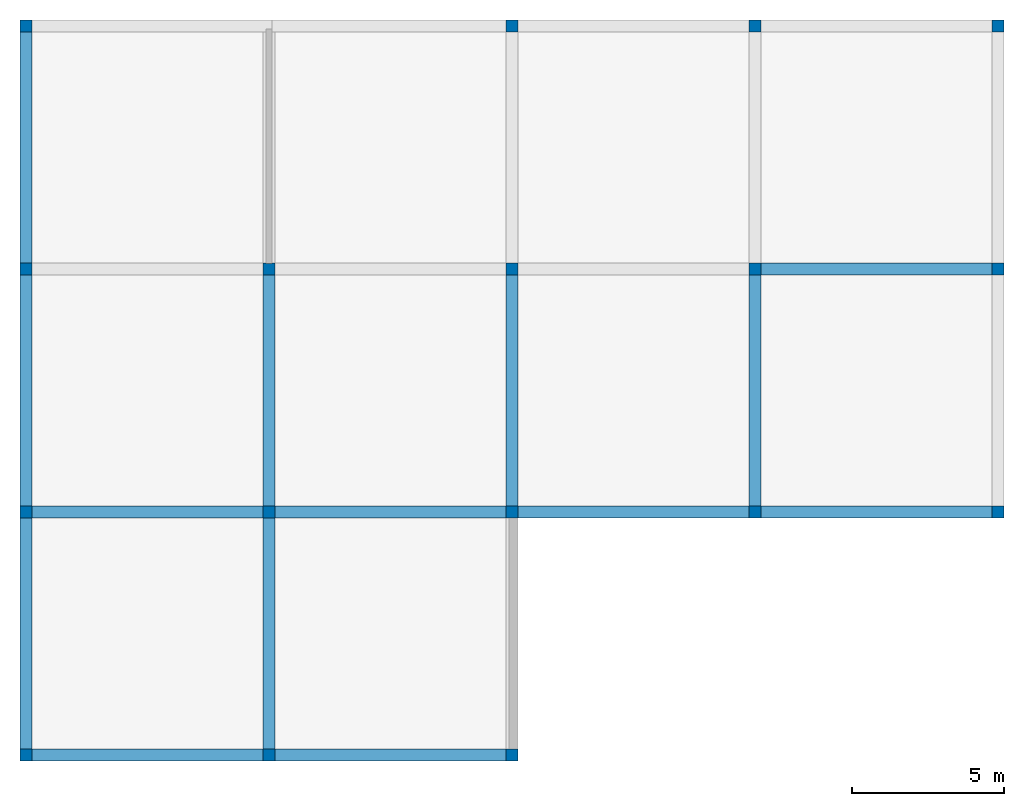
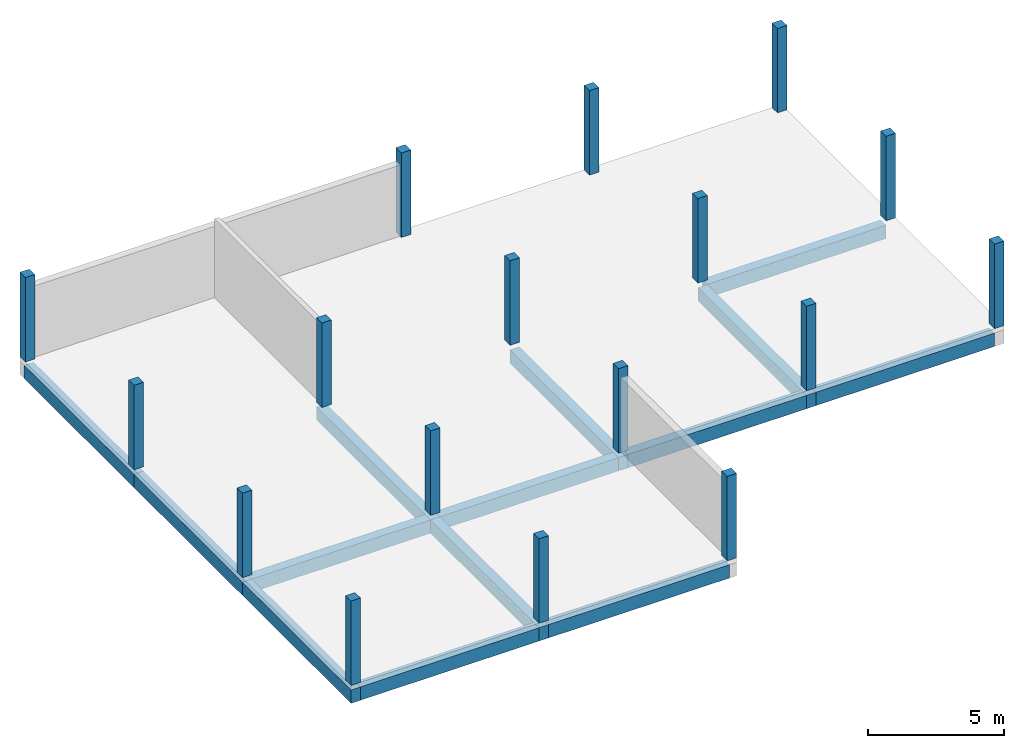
# One storey, part 1 of 3: 17 columns, 14 beams.
"""IFC4X3_ADD2 building model written with IfcOpenShell, lengths in millimetres."""

from ifc_helpers import new_model, entity, si_unit, converted_unit, derived_unit, direction, frame, frame_2d, origin, origin_2d_with_axis, place, context, subcontext, project, spatial, rectangle, extrude, faceted_brep, source, transform, mapped, material, material_profile, profile_set, type_object, type_shapes, element, save


model = new_model("IFC4X3_ADD2")

# Units and contexts
model_context = context("Model", 3, precision=0.01, world=origin(), true_north=direction((6.123233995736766e-17, 1.0)))
plan_context = context("Plan", 3, precision=0.01, world=origin(), true_north=direction((6.123233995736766e-17, 1.0)))
body_context = subcontext(model_context, "Body", "Model", "MODEL_VIEW")
ifc_project = project(units=[si_unit("LENGTHUNIT", "METRE", prefix="MILLI"), converted_unit("PLANEANGLEUNIT", "DEGREE", entity("IfcPlaneAngleMeasure", 0.017453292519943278), si_unit("PLANEANGLEUNIT", "RADIAN"), dimensions=[0, 0, 0, 0, 0, 0, 0]), si_unit("AREAUNIT", "SQUARE_METRE"), si_unit("VOLUMEUNIT", "CUBIC_METRE"), derived_unit("THERMALTRANSMITTANCEUNIT", [(si_unit("MASSUNIT", "GRAM", prefix="KILO"), 1), (si_unit("THERMODYNAMICTEMPERATUREUNIT", "KELVIN"), -1), (si_unit("TIMEUNIT", "SECOND"), -3)]), derived_unit("USERDEFINED", [(si_unit("MASSUNIT", "GRAM", prefix="KILO"), 1), (si_unit("THERMODYNAMICTEMPERATUREUNIT", "KELVIN"), -1), (si_unit("TIMEUNIT", "SECOND"), -2)]), derived_unit("THERMALRESISTANCEUNIT", [(si_unit("MASSUNIT", "GRAM", prefix="KILO"), -1), (si_unit("TIMEUNIT", "SECOND"), 3), (si_unit("THERMODYNAMICTEMPERATUREUNIT", "KELVIN"), 1)]), si_unit("PRESSUREUNIT", "PASCAL"), derived_unit("MASSDENSITYUNIT", [(si_unit("MASSUNIT", "GRAM", prefix="KILO"), 1), (si_unit("LENGTHUNIT", "METRE"), -3)]), derived_unit("MODULUSOFELASTICITYUNIT", [(si_unit("MASSUNIT", "GRAM", prefix="KILO"), 1), (si_unit("TIMEUNIT", "SECOND"), -2), (si_unit("LENGTHUNIT", "METRE"), -1)]), derived_unit("THERMALEXPANSIONCOEFFICIENTUNIT", [(si_unit("THERMODYNAMICTEMPERATUREUNIT", "KELVIN"), -1)]), derived_unit("VAPORPERMEABILITYUNIT", [(si_unit("LENGTHUNIT", "METRE"), -1), (si_unit("TIMEUNIT", "SECOND"), 1)]), derived_unit("USERDEFINED", [(si_unit("MASSUNIT", "GRAM", prefix="KILO"), 1), (si_unit("TIMEUNIT", "SECOND"), -3), (si_unit("LENGTHUNIT", "METRE"), 3), (si_unit("ELECTRICCURRENTUNIT", "AMPERE"), -2)]), derived_unit("SPECIFICHEATCAPACITYUNIT", [(si_unit("THERMODYNAMICTEMPERATUREUNIT", "KELVIN"), -1), (si_unit("TIMEUNIT", "SECOND"), -2), (si_unit("LENGTHUNIT", "METRE"), 2)]), derived_unit("THERMALCONDUCTANCEUNIT", [(si_unit("MASSUNIT", "GRAM", prefix="KILO"), 1), (si_unit("THERMODYNAMICTEMPERATUREUNIT", "KELVIN"), -1), (si_unit("TIMEUNIT", "SECOND"), -3), (si_unit("LENGTHUNIT", "METRE"), 1)])], contexts=[model_context, plan_context])

# Site, building, storey
site_placement = place(None, origin())
site = spatial("IfcSite", under=ifc_project, at=site_placement, Name="Default", CompositionType="ELEMENT")
building_placement = place(site_placement, origin())
building = spatial("IfcBuilding", under=site, at=building_placement, Name="Building Name", CompositionType="ELEMENT")
storey_placement = place(building_placement, origin())
storey = spatial("IfcBuildingStorey", under=building, at=storey_placement, Name="L1", CompositionType="ELEMENT", Elevation=0.0)

# Columns
ifc_material = material(Name="Concrete - Cast-in-Place Concrete", Category="Concrete")
ifc_material_profile_1 = material_profile(ifc_material, rectangle(XDim=400.0, YDim=400.0, at=origin_2d_with_axis()), Name="400 x 400mm")
ifc_profile_set_1 = profile_set([ifc_material_profile_1], Name="400 x 400mm")
column_type_1 = type_object("IfcColumnType", Name="Concrete Square:400 x 400mm", PredefinedType="COLUMN", material=ifc_profile_set_1)
shared_shape_1 = source(origin(), body_context, "Body", "SweptSolid", [
    extrude(rectangle(XDim=400.0, YDim=400.0, at=origin_2d_with_axis()), frame((11032.048763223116, 12096.696870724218, 0.0), z_axis=(0.0, 0.0, 1.0), x_axis=(-1.0, 0.0, 0.0)), (0.0, 0.0, 1.0), 3800.0000000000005),
])
type_shapes(column_type_1, [shared_shape_1])
column_1_placement = place(storey_placement, origin())
element("IfcColumn", 1, at=column_1_placement, inside=storey, type_object=column_type_1, Name="Concrete Square:400 x 400mm", ObjectType="Concrete Square:400 x 400mm", PredefinedType="COLUMN", context=body_context, shape_type="MappedRepresentation", body=[
    mapped(shared_shape_1, transform((0.0, 0.0, 0.0), scale=1.0)),
])
column_type_2 = type_object("IfcColumnType", Name="Concrete Square:400 x 400mm", PredefinedType="COLUMN", material=ifc_profile_set_1)
shared_shape_2 = source(origin(), body_context, "Body", "SweptSolid", [
    extrude(rectangle(XDim=400.0, YDim=400.0, at=origin_2d_with_axis()), frame((19032.048763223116, 12096.696870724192, 0.0), z_axis=(0.0, 0.0, 1.0), x_axis=(-1.0, 0.0, 0.0)), (0.0, 0.0, 1.0), 3800.0000000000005),
])
type_shapes(column_type_2, [shared_shape_2])
column_2_placement = place(storey_placement, origin())
element("IfcColumn", 2, at=column_2_placement, inside=storey, type_object=column_type_2, Name="Concrete Square:400 x 400mm", ObjectType="Concrete Square:400 x 400mm", PredefinedType="COLUMN", context=body_context, shape_type="MappedRepresentation", body=[
    mapped(shared_shape_2, transform((0.0, 0.0, 0.0), scale=1.0)),
])
column_type_3 = type_object("IfcColumnType", Name="Concrete Square:400 x 400mm", PredefinedType="COLUMN", material=ifc_profile_set_1)
shared_shape_3 = source(origin(), body_context, "Body", "SweptSolid", [
    extrude(rectangle(XDim=400.0, YDim=400.0, at=origin_2d_with_axis()), frame((-12967.951236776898, 4096.696870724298, 0.0), z_axis=(0.0, 0.0, 1.0), x_axis=(-1.0, 0.0, 0.0)), (0.0, 0.0, 1.0), 3800.0000000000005),
])
type_shapes(column_type_3, [shared_shape_3])
column_3_placement = place(storey_placement, origin())
element("IfcColumn", 3, at=column_3_placement, inside=storey, type_object=column_type_3, Name="Concrete Square:400 x 400mm", ObjectType="Concrete Square:400 x 400mm", PredefinedType="COLUMN", context=body_context, shape_type="MappedRepresentation", body=[
    mapped(shared_shape_3, transform((0.0, 0.0, 0.0), scale=1.0)),
])
column_type_4 = type_object("IfcColumnType", Name="Concrete Square:400 x 400mm", PredefinedType="COLUMN", material=ifc_profile_set_1)
shared_shape_4 = source(origin(), body_context, "Body", "SweptSolid", [
    extrude(rectangle(XDim=400.0, YDim=400.0, at=origin_2d_with_axis()), frame((3032.0487632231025, 4096.696870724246, 0.0), z_axis=(0.0, 0.0, 1.0), x_axis=(-1.0, 0.0, 0.0)), (0.0, 0.0, 1.0), 3800.0000000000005),
])
type_shapes(column_type_4, [shared_shape_4])
column_4_placement = place(storey_placement, origin())
element("IfcColumn", 4, at=column_4_placement, inside=storey, type_object=column_type_4, Name="Concrete Square:400 x 400mm", ObjectType="Concrete Square:400 x 400mm", PredefinedType="COLUMN", context=body_context, shape_type="MappedRepresentation", body=[
    mapped(shared_shape_4, transform((0.0, 0.0, 0.0), scale=1.0)),
])
column_type_5 = type_object("IfcColumnType", Name="Concrete Square:400 x 400mm", PredefinedType="COLUMN", material=ifc_profile_set_1)
shared_shape_5 = source(origin(), body_context, "Body", "SweptSolid", [
    extrude(rectangle(XDim=400.0, YDim=400.0, at=origin_2d_with_axis()), frame((11032.048763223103, 4096.6968707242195, 0.0), z_axis=(0.0, 0.0, 1.0), x_axis=(-1.0, 0.0, 0.0)), (0.0, 0.0, 1.0), 3800.0000000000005),
])
type_shapes(column_type_5, [shared_shape_5])
column_5_placement = place(storey_placement, origin())
element("IfcColumn", 5, at=column_5_placement, inside=storey, type_object=column_type_5, Name="Concrete Square:400 x 400mm", ObjectType="Concrete Square:400 x 400mm", PredefinedType="COLUMN", context=body_context, shape_type="MappedRepresentation", body=[
    mapped(shared_shape_5, transform((0.0, 0.0, 0.0), scale=1.0)),
])
column_type_6 = type_object("IfcColumnType", Name="Concrete Square:400 x 400mm", PredefinedType="COLUMN", material=ifc_profile_set_1)
shared_shape_6 = source(origin(), body_context, "Body", "SweptSolid", [
    extrude(rectangle(XDim=400.0, YDim=400.0, at=origin_2d_with_axis()), frame((19032.048763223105, 4096.696870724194, 0.0), z_axis=(0.0, 0.0, 1.0), x_axis=(-1.0, 0.0, 0.0)), (0.0, 0.0, 1.0), 3800.0000000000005),
])
type_shapes(column_type_6, [shared_shape_6])
column_6_placement = place(storey_placement, origin())
element("IfcColumn", 6, at=column_6_placement, inside=storey, type_object=column_type_6, Name="Concrete Square:400 x 400mm", ObjectType="Concrete Square:400 x 400mm", PredefinedType="COLUMN", context=body_context, shape_type="MappedRepresentation", body=[
    mapped(shared_shape_6, transform((0.0, 0.0, 0.0), scale=1.0)),
])
column_type_7 = type_object("IfcColumnType", Name="Concrete Square:400 x 400mm", PredefinedType="COLUMN", material=ifc_profile_set_1)
shared_shape_7 = source(origin(), body_context, "Body", "SweptSolid", [
    extrude(rectangle(XDim=400.0, YDim=400.0, at=origin_2d_with_axis()), frame((-12967.951236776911, -3903.3031292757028, 0.0), z_axis=(0.0, 0.0, 1.0), x_axis=(-1.0, 0.0, 0.0)), (0.0, 0.0, 1.0), 3800.0000000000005),
])
type_shapes(column_type_7, [shared_shape_7])
column_7_placement = place(storey_placement, origin())
element("IfcColumn", 7, at=column_7_placement, inside=storey, type_object=column_type_7, Name="Concrete Square:400 x 400mm", ObjectType="Concrete Square:400 x 400mm", PredefinedType="COLUMN", context=body_context, shape_type="MappedRepresentation", body=[
    mapped(shared_shape_7, transform((0.0, 0.0, 0.0), scale=1.0)),
])
column_type_8 = type_object("IfcColumnType", Name="Concrete Square:400 x 400mm", PredefinedType="COLUMN", material=ifc_profile_set_1)
shared_shape_8 = source(origin(), body_context, "Body", "SweptSolid", [
    extrude(rectangle(XDim=400.0, YDim=400.0, at=origin_2d_with_axis()), frame((-4967.951236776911, -3903.3031292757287, 0.0), z_axis=(0.0, 0.0, 1.0), x_axis=(-1.0, 0.0, 0.0)), (0.0, 0.0, 1.0), 3800.0000000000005),
])
type_shapes(column_type_8, [shared_shape_8])
column_8_placement = place(storey_placement, origin())
element("IfcColumn", 8, at=column_8_placement, inside=storey, type_object=column_type_8, Name="Concrete Square:400 x 400mm", ObjectType="Concrete Square:400 x 400mm", PredefinedType="COLUMN", context=body_context, shape_type="MappedRepresentation", body=[
    mapped(shared_shape_8, transform((0.0, 0.0, 0.0), scale=1.0)),
])
column_type_9 = type_object("IfcColumnType", Name="Concrete Square:400 x 400mm", PredefinedType="COLUMN", material=ifc_profile_set_1)
shared_shape_9 = source(origin(), body_context, "Body", "SweptSolid", [
    extrude(rectangle(XDim=400.0, YDim=400.0, at=origin_2d_with_axis()), frame((11032.04876322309, -3903.303129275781, 0.0), z_axis=(0.0, 0.0, 1.0), x_axis=(-1.0, 0.0, 0.0)), (0.0, 0.0, 1.0), 3800.0000000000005),
])
type_shapes(column_type_9, [shared_shape_9])
column_9_placement = place(storey_placement, origin())
element("IfcColumn", 9, at=column_9_placement, inside=storey, type_object=column_type_9, Name="Concrete Square:400 x 400mm", ObjectType="Concrete Square:400 x 400mm", PredefinedType="COLUMN", context=body_context, shape_type="MappedRepresentation", body=[
    mapped(shared_shape_9, transform((0.0, 0.0, 0.0), scale=1.0)),
])
column_type_10 = type_object("IfcColumnType", Name="Concrete Square:400 x 400mm", PredefinedType="COLUMN", material=ifc_profile_set_1)
shared_shape_10 = source(origin(), body_context, "Body", "SweptSolid", [
    extrude(rectangle(XDim=400.0, YDim=400.0, at=origin_2d_with_axis()), frame((19032.04876322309, -3903.303129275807, 0.0), z_axis=(0.0, 0.0, 1.0), x_axis=(-1.0, 0.0, 0.0)), (0.0, 0.0, 1.0), 3800.0000000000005),
])
type_shapes(column_type_10, [shared_shape_10])
column_10_placement = place(storey_placement, origin())
element("IfcColumn", 10, at=column_10_placement, inside=storey, type_object=column_type_10, Name="Concrete Square:400 x 400mm", ObjectType="Concrete Square:400 x 400mm", PredefinedType="COLUMN", context=body_context, shape_type="MappedRepresentation", body=[
    mapped(shared_shape_10, transform((0.0, 0.0, 0.0), scale=1.0)),
])
column_type_11 = type_object("IfcColumnType", Name="Concrete Square:400 x 400mm", PredefinedType="COLUMN", material=ifc_profile_set_1)
shared_shape_11 = source(origin(), body_context, "Body", "SweptSolid", [
    extrude(rectangle(XDim=400.0, YDim=400.0, at=origin_2d_with_axis()), frame((-12967.951236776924, -11903.303129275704, 0.0), z_axis=(0.0, 0.0, 1.0), x_axis=(-1.0, 0.0, 0.0)), (0.0, 0.0, 1.0), 3800.0000000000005),
])
type_shapes(column_type_11, [shared_shape_11])
column_11_placement = place(storey_placement, origin())
element("IfcColumn", 11, at=column_11_placement, inside=storey, type_object=column_type_11, Name="Concrete Square:400 x 400mm", ObjectType="Concrete Square:400 x 400mm", PredefinedType="COLUMN", context=body_context, shape_type="MappedRepresentation", body=[
    mapped(shared_shape_11, transform((0.0, 0.0, 0.0), scale=1.0)),
])
column_type_12 = type_object("IfcColumnType", Name="Concrete Square:400 x 400mm", PredefinedType="COLUMN", material=ifc_profile_set_1)
shared_shape_12 = source(origin(), body_context, "Body", "SweptSolid", [
    extrude(rectangle(XDim=400.0, YDim=400.0, at=origin_2d_with_axis()), frame((-4967.951236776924, -11903.30312927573, 0.0), z_axis=(0.0, 0.0, 1.0), x_axis=(-1.0, 0.0, 0.0)), (0.0, 0.0, 1.0), 3800.0000000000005),
])
type_shapes(column_type_12, [shared_shape_12])
column_12_placement = place(storey_placement, origin())
element("IfcColumn", 12, at=column_12_placement, inside=storey, type_object=column_type_12, Name="Concrete Square:400 x 400mm", ObjectType="Concrete Square:400 x 400mm", PredefinedType="COLUMN", context=body_context, shape_type="MappedRepresentation", body=[
    mapped(shared_shape_12, transform((0.0, 0.0, 0.0), scale=1.0)),
])
column_type_13 = type_object("IfcColumnType", Name="Concrete Square:400 x 400mm", PredefinedType="COLUMN", material=ifc_profile_set_1)
shared_shape_13 = source(origin(), body_context, "Body", "SweptSolid", [
    extrude(rectangle(XDim=400.0, YDim=400.0, at=frame_2d((-39.99999999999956, -19.999999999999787), x_axis=(1.0, 0.0))), frame((2992.048763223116, 12076.696870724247, 0.0), z_axis=(0.0, 0.0, 1.0), x_axis=(-1.0, 0.0, 0.0)), (0.0, 0.0, 1.0), 3800.0000000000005),
])
type_shapes(column_type_13, [shared_shape_13])
column_13_placement = place(storey_placement, origin())
element("IfcColumn", 13, at=column_13_placement, inside=storey, type_object=column_type_13, Name="Concrete Square:400 x 400mm", ObjectType="Concrete Square:400 x 400mm", PredefinedType="COLUMN", context=body_context, shape_type="MappedRepresentation", body=[
    mapped(shared_shape_13, transform((0.0, 0.0, 0.0), scale=1.0)),
])
column_type_14 = type_object("IfcColumnType", Name="Concrete Square:400 x 400mm", PredefinedType="COLUMN", material=ifc_profile_set_1)
shared_shape_14 = source(origin(), body_context, "Body", "SweptSolid", [
    extrude(rectangle(XDim=400.0, YDim=400.0, at=frame_2d((39.99999999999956, -19.999999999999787), x_axis=(1.0, 0.0))), frame((-12927.951236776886, 12076.696870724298, 0.0), z_axis=(0.0, 0.0, 1.0), x_axis=(-1.0, 0.0, 0.0)), (0.0, 0.0, 1.0), 3800.0000000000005),
])
type_shapes(column_type_14, [shared_shape_14])
column_14_placement = place(storey_placement, origin())
element("IfcColumn", 14, at=column_14_placement, inside=storey, type_object=column_type_14, Name="Concrete Square:400 x 400mm", ObjectType="Concrete Square:400 x 400mm", PredefinedType="COLUMN", context=body_context, shape_type="MappedRepresentation", body=[
    mapped(shared_shape_14, transform((0.0, 0.0, 0.0), scale=1.0)),
])
column_type_15 = type_object("IfcColumnType", Name="Concrete Square:400 x 400mm", PredefinedType="COLUMN", material=ifc_profile_set_1)
shared_shape_15 = source(origin(), body_context, "Body", "SweptSolid", [
    extrude(rectangle(XDim=400.0, YDim=400.0, at=frame_2d((-19.999999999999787, 39.9999999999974), x_axis=(1.0, 0.0))), frame((3012.0487632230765, -11863.303129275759, 0.0), z_axis=(0.0, 0.0, 1.0), x_axis=(-1.0, 0.0, 0.0)), (0.0, 0.0, 1.0), 3800.0000000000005),
])
type_shapes(column_type_15, [shared_shape_15])
column_15_placement = place(storey_placement, origin())
element("IfcColumn", 15, at=column_15_placement, inside=storey, type_object=column_type_15, Name="Concrete Square:400 x 400mm", ObjectType="Concrete Square:400 x 400mm", PredefinedType="COLUMN", context=body_context, shape_type="MappedRepresentation", body=[
    mapped(shared_shape_15, transform((0.0, 0.0, 0.0), scale=1.0)),
])
column_type_16 = type_object("IfcColumnType", Name="Concrete Square:400 x 400mm", PredefinedType="COLUMN", material=ifc_profile_set_1)
shared_shape_16 = source(origin(), body_context, "Body", "SweptSolid", [
    extrude(rectangle(XDim=400.0, YDim=400.0, at=frame_2d((-20.000000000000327, -40.00000000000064), x_axis=(1.0, 0.0))), frame((3012.0487632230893, -3943.3031292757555, 0.0), z_axis=(0.0, 0.0, 1.0), x_axis=(-1.0, 0.0, 0.0)), (0.0, 0.0, 1.0), 3800.0000000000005),
])
type_shapes(column_type_16, [shared_shape_16])
column_16_placement = place(storey_placement, origin())
element("IfcColumn", 16, at=column_16_placement, inside=storey, type_object=column_type_16, Name="Concrete Square:400 x 400mm", ObjectType="Concrete Square:400 x 400mm", PredefinedType="COLUMN", context=body_context, shape_type="MappedRepresentation", body=[
    mapped(shared_shape_16, transform((0.0, 0.0, 0.0), scale=1.0)),
])
column_type_17 = type_object("IfcColumnType", Name="Concrete Square:400 x 400mm", PredefinedType="COLUMN", material=ifc_profile_set_1)
shared_shape_17 = source(origin(), body_context, "Body", "Brep", [
    faceted_brep([(-4767.951236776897, 4296.696870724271, 0.0), (-4767.951236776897, 3896.696870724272, 0.0), (-5167.951236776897, 3896.696870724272, 0.0), (-5167.951236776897, 4296.696870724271, 0.0), (-5067.951236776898, 4296.696870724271, 0.0), (-5067.951236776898, 4286.6968707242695, 0.0), (-4867.9512367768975, 4286.6968707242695, 0.0), (-4867.951236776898, 4296.696870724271, 0.0), (-4767.951236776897, 4296.696870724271, 3200.0), (-4767.951236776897, 4296.696870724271, 3350.0), (-4767.951236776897, 4296.696870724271, 3800.0), (-4767.951236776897, 3896.696870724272, 3800.0), (-4767.951236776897, 3896.696870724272, 3350.0), (-4767.951236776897, 3896.696870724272, 3200.0), (-5167.951236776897, 3896.696870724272, 3800.0), (-5167.951236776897, 3896.696870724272, 3350.0), (-5167.951236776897, 3896.696870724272, 3200.0), (-5167.951236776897, 4296.696870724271, 3800.0), (-5167.951236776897, 4296.696870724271, 3350.0), (-5167.951236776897, 4296.696870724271, 3200.0), (-4867.9512367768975, 4296.696870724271, 3350.0), (-4867.9512367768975, 4296.696870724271, 3550.0), (-5067.951236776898, 4296.696870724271, 3550.0), (-5067.951236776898, 4296.696870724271, 3350.0), (-5067.951236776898, 4286.6968707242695, 3550.0), (-4867.9512367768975, 4286.6968707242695, 3550.0)], [[[0, 1, 2, 3, 4, 5, 6, 7]], [[1, 0, 8, 9, 10, 11, 12, 13]], [[2, 1, 13, 12, 11, 14, 15, 16]], [[3, 2, 16, 15, 14, 17, 18, 19]], [[4, 3, 19, 18, 17, 10, 9, 8, 0, 7, 20, 21, 22, 23]], [[24, 5, 4, 23, 22]], [[6, 25, 21, 20, 7]], [[5, 24, 25, 6]], [[25, 24, 22, 21]], [[11, 10, 17, 14]]]),
])
type_shapes(column_type_17, [shared_shape_17])
column_17_placement = place(storey_placement, origin())
element("IfcColumn", 17, at=column_17_placement, inside=storey, type_object=column_type_17, Name="Concrete Square:400 x 400mm", ObjectType="Concrete Square:400 x 400mm", PredefinedType="COLUMN", context=body_context, shape_type="MappedRepresentation", body=[
    mapped(shared_shape_17, transform((0.0, 0.0, 0.0), scale=1.0)),
])

# Beams
ifc_material_profile_2 = material_profile(ifc_material, rectangle(XDim=600.0, YDim=400.0000000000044, at=frame_2d((-1.0942358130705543e-12, 2.842170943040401e-14), x_axis=(0.0, 1.0))), Name="400 x 600mm")
ifc_profile_set_2 = profile_set([ifc_material_profile_2], Name="400 x 600mm")
beam_type_1 = type_object("IfcBeamType", Name="Concrete - Rectangular Beam:400 x 600mm", PredefinedType="BEAM", material=ifc_profile_set_2)
shared_shape_18 = source(origin(), body_context, "Body", "SweptSolid", [
    extrude(rectangle(XDim=600.0, YDim=400.0000000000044, at=frame_2d((-1.0942358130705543e-12, 2.842170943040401e-14), x_axis=(0.0, 1.0))), frame((-12967.95123677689, 11996.696870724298, -500.0), z_axis=(0.0, -1.0, 0.0), x_axis=(-1.0, 0.0, 0.0)), (0.0, 0.0, 1.0), 8100.000000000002),
])
type_shapes(beam_type_1, [shared_shape_18])
beam_1_placement = place(storey_placement, origin())
element("IfcBeam", 18, at=beam_1_placement, inside=storey, type_object=beam_type_1, Name="Concrete - Rectangular Beam:400 x 600mm", ObjectType="Concrete - Rectangular Beam:400 x 600mm", PredefinedType="BEAM", context=body_context, shape_type="MappedRepresentation", body=[
    mapped(shared_shape_18, transform((0.0, 0.0, 0.0), scale=1.0)),
])
beam_type_2 = type_object("IfcBeamType", Name="Concrete - Rectangular Beam:400 x 600mm", PredefinedType="BEAM", material=ifc_profile_set_2)
shared_shape_19 = source(origin(), body_context, "Body", "SweptSolid", [
    extrude(rectangle(XDim=600.0, YDim=400.00000000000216, at=frame_2d((-1.0942358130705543e-12, 2.842170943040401e-14), x_axis=(0.0, 1.0))), frame((-12967.951236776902, 3896.6968707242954, -500.0), z_axis=(0.0, -1.0, 0.0), x_axis=(-1.0, 0.0, 0.0)), (0.0, 0.0, 1.0), 8000.000000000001),
])
type_shapes(beam_type_2, [shared_shape_19])
beam_2_placement = place(storey_placement, origin())
element("IfcBeam", 19, at=beam_2_placement, inside=storey, type_object=beam_type_2, Name="Concrete - Rectangular Beam:400 x 600mm", ObjectType="Concrete - Rectangular Beam:400 x 600mm", PredefinedType="BEAM", context=body_context, shape_type="MappedRepresentation", body=[
    mapped(shared_shape_19, transform((0.0, 0.0, 0.0), scale=1.0)),
])
beam_type_3 = type_object("IfcBeamType", Name="Concrete - Rectangular Beam:400 x 600mm", PredefinedType="BEAM", material=ifc_profile_set_2)
shared_shape_20 = source(origin(), body_context, "Body", "SweptSolid", [
    extrude(rectangle(XDim=600.0, YDim=400.00000000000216, at=frame_2d((-1.0942358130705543e-12, 2.842170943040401e-14), x_axis=(0.0, 1.0))), frame((-12967.951236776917, -4103.303129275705, -500.0), z_axis=(0.0, -1.0, 0.0), x_axis=(-1.0, 0.0, 0.0)), (0.0, 0.0, 1.0), 8000.000000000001),
])
type_shapes(beam_type_3, [shared_shape_20])
beam_3_placement = place(storey_placement, origin())
element("IfcBeam", 20, at=beam_3_placement, inside=storey, type_object=beam_type_3, Name="Concrete - Rectangular Beam:400 x 600mm", ObjectType="Concrete - Rectangular Beam:400 x 600mm", PredefinedType="BEAM", context=body_context, shape_type="MappedRepresentation", body=[
    mapped(shared_shape_20, transform((0.0, 0.0, 0.0), scale=1.0)),
])
beam_type_4 = type_object("IfcBeamType", Name="Concrete - Rectangular Beam:400 x 600mm", PredefinedType="BEAM", material=ifc_profile_set_2)
shared_shape_21 = source(origin(), body_context, "Body", "SweptSolid", [
    extrude(rectangle(XDim=600.0, YDim=400.0000000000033, at=frame_2d((-5.400124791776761e-13, 2.842170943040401e-14), x_axis=(0.0, 1.0))), frame((-4967.951236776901, 4296.696870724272, -500.0), z_axis=(0.0, -1.0, 0.0), x_axis=(-1.0, 0.0, 0.0)), (0.0, 0.0, 1.0), 8400.000000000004),
])
type_shapes(beam_type_4, [shared_shape_21])
beam_4_placement = place(storey_placement, origin())
element("IfcBeam", 21, at=beam_4_placement, inside=storey, type_object=beam_type_4, Name="Concrete - Rectangular Beam:400 x 600mm", ObjectType="Concrete - Rectangular Beam:400 x 600mm", PredefinedType="BEAM", context=body_context, shape_type="MappedRepresentation", body=[
    mapped(shared_shape_21, transform((0.0, 0.0, 0.0), scale=1.0)),
])
beam_type_5 = type_object("IfcBeamType", Name="Concrete - Rectangular Beam:400 x 600mm", PredefinedType="BEAM", material=ifc_profile_set_2)
shared_shape_22 = source(origin(), body_context, "Body", "SweptSolid", [
    extrude(rectangle(XDim=600.0, YDim=400.0000000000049, at=frame_2d((2.7000623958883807e-13, 2.842170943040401e-14), x_axis=(0.0, 1.0))), frame((-4967.951236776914, -4103.303129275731, -500.0), z_axis=(0.0, -1.0, 0.0), x_axis=(-1.0, 0.0, 0.0)), (0.0, 0.0, 1.0), 8000.000000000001),
])
type_shapes(beam_type_5, [shared_shape_22])
beam_5_placement = place(storey_placement, origin())
element("IfcBeam", 22, at=beam_5_placement, inside=storey, type_object=beam_type_5, Name="Concrete - Rectangular Beam:400 x 600mm", ObjectType="Concrete - Rectangular Beam:400 x 600mm", PredefinedType="BEAM", context=body_context, shape_type="MappedRepresentation", body=[
    mapped(shared_shape_22, transform((0.0, 0.0, 0.0), scale=1.0)),
])
beam_type_6 = type_object("IfcBeamType", Name="Concrete - Rectangular Beam:400 x 600mm", PredefinedType="BEAM", material=ifc_profile_set_2)
shared_shape_23 = source(origin(), body_context, "Body", "SweptSolid", [
    extrude(rectangle(XDim=600.0, YDim=400.0000000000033, at=frame_2d((0.0, 2.842170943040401e-14), x_axis=(0.0, 1.0))), frame((3032.0487632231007, 3896.6968707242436, -500.0), z_axis=(0.0, -1.0, 0.0), x_axis=(-1.0, 0.0, 0.0)), (0.0, 0.0, 1.0), 8000.000000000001),
])
type_shapes(beam_type_6, [shared_shape_23])
beam_6_placement = place(storey_placement, origin())
element("IfcBeam", 23, at=beam_6_placement, inside=storey, type_object=beam_type_6, Name="Concrete - Rectangular Beam:400 x 600mm", ObjectType="Concrete - Rectangular Beam:400 x 600mm", PredefinedType="BEAM", context=body_context, shape_type="MappedRepresentation", body=[
    mapped(shared_shape_23, transform((0.0, 0.0, 0.0), scale=1.0)),
])
beam_type_7 = type_object("IfcBeamType", Name="Concrete - Rectangular Beam:400 x 600mm", PredefinedType="BEAM", material=ifc_profile_set_2)
shared_shape_24 = source(origin(), body_context, "Body", "SweptSolid", [
    extrude(rectangle(XDim=600.0, YDim=400.00000000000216, at=frame_2d((-1.0942358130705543e-12, 2.842170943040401e-14), x_axis=(0.0, 1.0))), frame((11032.048763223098, 3896.6968707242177, -500.0), z_axis=(0.0, -1.0, 0.0), x_axis=(-1.0, 0.0, 0.0)), (0.0, 0.0, 1.0), 8000.000000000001),
])
type_shapes(beam_type_7, [shared_shape_24])
beam_7_placement = place(storey_placement, origin())
element("IfcBeam", 24, at=beam_7_placement, inside=storey, type_object=beam_type_7, Name="Concrete - Rectangular Beam:400 x 600mm", ObjectType="Concrete - Rectangular Beam:400 x 600mm", PredefinedType="BEAM", context=body_context, shape_type="MappedRepresentation", body=[
    mapped(shared_shape_24, transform((0.0, 0.0, 0.0), scale=1.0)),
])
beam_type_8 = type_object("IfcBeamType", Name="Concrete - Rectangular Beam:400 x 600mm", PredefinedType="BEAM", material=ifc_profile_set_2)
shared_shape_25 = source(origin(), body_context, "Body", "SweptSolid", [
    extrude(rectangle(XDim=600.0, YDim=400.0000000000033, at=frame_2d((2.842170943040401e-14, 0.0), x_axis=(1.0, 0.0))), frame((11232.048763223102, 4096.696870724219, -500.0), z_axis=(1.0, 0.0, 0.0), x_axis=(0.0, 0.0, -1.0)), (0.0, 0.0, 1.0), 7599.999999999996),
])
type_shapes(beam_type_8, [shared_shape_25])
beam_8_placement = place(storey_placement, origin())
element("IfcBeam", 25, at=beam_8_placement, inside=storey, type_object=beam_type_8, Name="Concrete - Rectangular Beam:400 x 600mm", ObjectType="Concrete - Rectangular Beam:400 x 600mm", PredefinedType="BEAM", context=body_context, shape_type="MappedRepresentation", body=[
    mapped(shared_shape_25, transform((0.0, 0.0, 0.0), scale=1.0)),
])
beam_type_9 = type_object("IfcBeamType", Name="Concrete - Rectangular Beam:400 x 600mm", PredefinedType="BEAM", material=ifc_profile_set_2)
shared_shape_26 = source(origin(), body_context, "Body", "SweptSolid", [
    extrude(rectangle(XDim=600.0, YDim=400.0000000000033, at=frame_2d((2.842170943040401e-14, 0.0), x_axis=(1.0, 0.0))), frame((3232.048763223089, -3903.303129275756, -500.0), z_axis=(1.0, 0.0, 0.0), x_axis=(0.0, 0.0, -1.0)), (0.0, 0.0, 1.0), 7599.999999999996),
])
type_shapes(beam_type_9, [shared_shape_26])
beam_9_placement = place(storey_placement, origin())
element("IfcBeam", 26, at=beam_9_placement, inside=storey, type_object=beam_type_9, Name="Concrete - Rectangular Beam:400 x 600mm", ObjectType="Concrete - Rectangular Beam:400 x 600mm", PredefinedType="BEAM", context=body_context, shape_type="MappedRepresentation", body=[
    mapped(shared_shape_26, transform((0.0, 0.0, 0.0), scale=1.0)),
])
beam_type_10 = type_object("IfcBeamType", Name="Concrete - Rectangular Beam:400 x 600mm", PredefinedType="BEAM", material=ifc_profile_set_2)
shared_shape_27 = source(origin(), body_context, "Body", "SweptSolid", [
    extrude(rectangle(XDim=600.0, YDim=400.0000000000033, at=frame_2d((2.842170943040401e-14, 0.0), x_axis=(1.0, 0.0))), frame((11232.04876322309, -3903.303129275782, -500.0), z_axis=(1.0, 0.0, 0.0), x_axis=(0.0, 0.0, -1.0)), (0.0, 0.0, 1.0), 7599.999999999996),
])
type_shapes(beam_type_10, [shared_shape_27])
beam_10_placement = place(storey_placement, origin())
element("IfcBeam", 27, at=beam_10_placement, inside=storey, type_object=beam_type_10, Name="Concrete - Rectangular Beam:400 x 600mm", ObjectType="Concrete - Rectangular Beam:400 x 600mm", PredefinedType="BEAM", context=body_context, shape_type="MappedRepresentation", body=[
    mapped(shared_shape_27, transform((0.0, 0.0, 0.0), scale=1.0)),
])
beam_type_11 = type_object("IfcBeamType", Name="Concrete - Rectangular Beam:400 x 600mm", PredefinedType="BEAM", material=ifc_profile_set_2)
shared_shape_28 = source(origin(), body_context, "Body", "SweptSolid", [
    extrude(rectangle(XDim=600.0, YDim=400.0000000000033, at=frame_2d((2.842170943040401e-14, 0.0), x_axis=(1.0, 0.0))), frame((-12767.951236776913, -3903.3031292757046, -500.0), z_axis=(1.0, 0.0, 0.0), x_axis=(0.0, 0.0, -1.0)), (0.0, 0.0, 1.0), 7599.999999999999),
])
type_shapes(beam_type_11, [shared_shape_28])
beam_11_placement = place(storey_placement, origin())
element("IfcBeam", 28, at=beam_11_placement, inside=storey, type_object=beam_type_11, Name="Concrete - Rectangular Beam:400 x 600mm", ObjectType="Concrete - Rectangular Beam:400 x 600mm", PredefinedType="BEAM", context=body_context, shape_type="MappedRepresentation", body=[
    mapped(shared_shape_28, transform((0.0, 0.0, 0.0), scale=1.0)),
])
beam_type_12 = type_object("IfcBeamType", Name="Concrete - Rectangular Beam:400 x 600mm", PredefinedType="BEAM", material=ifc_profile_set_2)
shared_shape_29 = source(origin(), body_context, "Body", "SweptSolid", [
    extrude(rectangle(XDim=600.0, YDim=400.0000000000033, at=frame_2d((2.842170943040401e-14, 2.7000623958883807e-13), x_axis=(1.0, 0.0))), frame((-4767.951236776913, -3903.3031292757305, -500.0), z_axis=(1.0, 0.0, 0.0), x_axis=(0.0, 0.0, -1.0)), (0.0, 0.0, 1.0), 7600.000000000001),
])
type_shapes(beam_type_12, [shared_shape_29])
beam_12_placement = place(storey_placement, origin())
element("IfcBeam", 29, at=beam_12_placement, inside=storey, type_object=beam_type_12, Name="Concrete - Rectangular Beam:400 x 600mm", ObjectType="Concrete - Rectangular Beam:400 x 600mm", PredefinedType="BEAM", context=body_context, shape_type="MappedRepresentation", body=[
    mapped(shared_shape_29, transform((0.0, 0.0, 0.0), scale=1.0)),
])
beam_type_13 = type_object("IfcBeamType", Name="Concrete - Rectangular Beam:400 x 600mm", PredefinedType="BEAM", material=ifc_profile_set_2)
shared_shape_30 = source(origin(), body_context, "Body", "SweptSolid", [
    extrude(rectangle(XDim=600.0, YDim=400.0000000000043, at=frame_2d((2.842170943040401e-14, -2.1600499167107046e-12), x_axis=(1.0, 0.0))), frame((-12767.951236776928, -11903.303129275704, -500.0), z_axis=(1.0, 0.0, 0.0), x_axis=(0.0, 0.0, -1.0)), (0.0, 0.0, 1.0), 7599.999999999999),
])
type_shapes(beam_type_13, [shared_shape_30])
beam_13_placement = place(storey_placement, origin())
element("IfcBeam", 30, at=beam_13_placement, inside=storey, type_object=beam_type_13, Name="Concrete - Rectangular Beam:400 x 600mm", ObjectType="Concrete - Rectangular Beam:400 x 600mm", PredefinedType="BEAM", context=body_context, shape_type="MappedRepresentation", body=[
    mapped(shared_shape_30, transform((0.0, 0.0, 0.0), scale=1.0)),
])
beam_type_14 = type_object("IfcBeamType", Name="Concrete - Rectangular Beam:400 x 600mm", PredefinedType="BEAM", material=ifc_profile_set_2)
shared_shape_31 = source(origin(), body_context, "Body", "SweptSolid", [
    extrude(rectangle(XDim=600.0, YDim=400.0000000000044, at=frame_2d((2.842170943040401e-14, 0.0), x_axis=(1.0, 0.0))), frame((-4767.951236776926, -11903.30312927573, -500.0), z_axis=(1.0, 0.0, 0.0), x_axis=(0.0, 0.0, -1.0)), (0.0, 0.0, 1.0), 7700.000000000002),
])
type_shapes(beam_type_14, [shared_shape_31])
beam_14_placement = place(storey_placement, origin())
element("IfcBeam", 31, at=beam_14_placement, inside=storey, type_object=beam_type_14, Name="Concrete - Rectangular Beam:400 x 600mm", ObjectType="Concrete - Rectangular Beam:400 x 600mm", PredefinedType="BEAM", context=body_context, shape_type="MappedRepresentation", body=[
    mapped(shared_shape_31, transform((0.0, 0.0, 0.0), scale=1.0)),
])

save(model, "model.ifc")
